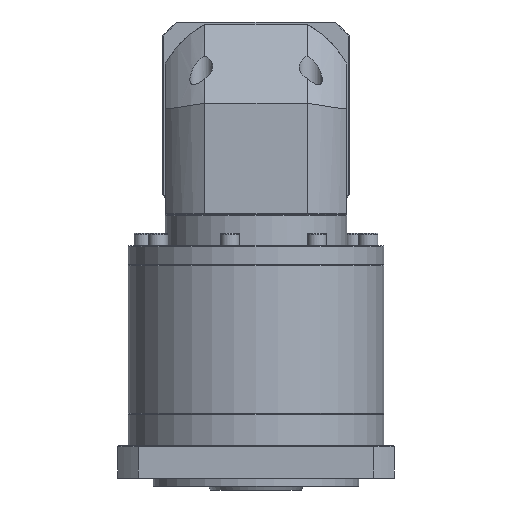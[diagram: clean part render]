
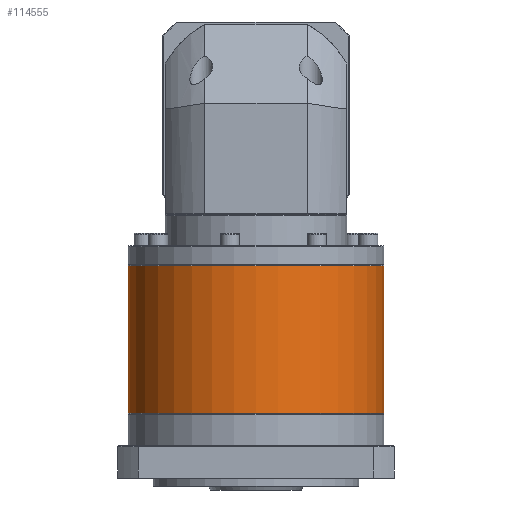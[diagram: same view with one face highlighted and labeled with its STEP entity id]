
A CAD part, front view. The second image highlights one B-rep face of the part: STEP entity #114555.
In plain terms, the highlighted cylindrical face has radius 81 mm (diameter 162 mm), a partial arc.
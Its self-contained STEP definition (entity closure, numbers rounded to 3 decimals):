
#1155 = CARTESIAN_POINT ( 'NONE',  ( -77.737, 93.747, -56.471 ) ) ;
#3042 = CARTESIAN_POINT ( 'NONE',  ( -239.737, 93.747, -55.971 ) ) ;
#5660 = EDGE_CURVE ( 'NONE', #32353, #60866, #133161, .T. ) ;
#8442 = ORIENTED_EDGE ( 'NONE', *, *, #60791, .F. ) ;
#10707 = DIRECTION ( 'NONE',  ( -1., 0., 0. ) ) ;
#11830 = VECTOR ( 'NONE', #77894, 1000. ) ;
#20290 = ORIENTED_EDGE ( 'NONE', *, *, #5660, .T. ) ;
#21773 = EDGE_CURVE ( 'NONE', #73895, #32353, #84606, .T. ) ;
#28866 = AXIS2_PLACEMENT_3D ( 'NONE', #52777, #63322, #10707 ) ;
#32353 = VERTEX_POINT ( 'NONE', #81417 ) ;
#40982 = CYLINDRICAL_SURFACE ( 'NONE', #87502, 81. ) ;
#43297 = DIRECTION ( 'NONE',  ( 0., 0., -1. ) ) ;
#43467 = ORIENTED_EDGE ( 'NONE', *, *, #127400, .T. ) ;
#45846 = FACE_OUTER_BOUND ( 'NONE', #127074, .T. ) ;
#48875 = CARTESIAN_POINT ( 'NONE',  ( -77.737, 93.747, -55.971 ) ) ;
#49944 = CARTESIAN_POINT ( 'NONE',  ( -239.737, 93.747, -56.471 ) ) ;
#52777 = CARTESIAN_POINT ( 'NONE',  ( -158.737, 93.747, -149.971 ) ) ;
#60791 = EDGE_CURVE ( 'NONE', #114512, #60866, #129700, .T. ) ;
#60866 = VERTEX_POINT ( 'NONE', #92243 ) ;
#63322 = DIRECTION ( 'NONE',  ( 0., 0., 1. ) ) ;
#73895 = VERTEX_POINT ( 'NONE', #49944 ) ;
#75204 = VECTOR ( 'NONE', #90428, 1000. ) ;
#77894 = DIRECTION ( 'NONE',  ( 0., 0., -1. ) ) ;
#81417 = CARTESIAN_POINT ( 'NONE',  ( -239.737, 93.747, -149.971 ) ) ;
#84606 = LINE ( 'NONE', #3042, #11830 ) ;
#87502 = AXIS2_PLACEMENT_3D ( 'NONE', #94541, #43297, #127305 ) ;
#90428 = DIRECTION ( 'NONE',  ( 0., 0., -1. ) ) ;
#92243 = CARTESIAN_POINT ( 'NONE',  ( -77.737, 93.747, -149.971 ) ) ;
#94541 = CARTESIAN_POINT ( 'NONE',  ( -158.737, 93.747, -55.971 ) ) ;
#100018 = DIRECTION ( 'NONE',  ( 0., 0., -1. ) ) ;
#114512 = VERTEX_POINT ( 'NONE', #1155 ) ;
#114555 = ADVANCED_FACE ( 'NONE', ( #45846 ), #40982, .T. ) ;
#116708 = ORIENTED_EDGE ( 'NONE', *, *, #21773, .T. ) ;
#119444 = CARTESIAN_POINT ( 'NONE',  ( -158.737, 93.747, -56.471 ) ) ;
#119898 = DIRECTION ( 'NONE',  ( -1., 0., 0. ) ) ;
#121583 = AXIS2_PLACEMENT_3D ( 'NONE', #119444, #100018, #119898 ) ;
#127074 = EDGE_LOOP ( 'NONE', ( #8442, #43467, #116708, #20290 ) ) ;
#127305 = DIRECTION ( 'NONE',  ( -1., 0., 0. ) ) ;
#127400 = EDGE_CURVE ( 'NONE', #114512, #73895, #134151, .T. ) ;
#129700 = LINE ( 'NONE', #48875, #75204 ) ;
#133161 = CIRCLE ( 'NONE', #28866, 81. ) ;
#134151 = CIRCLE ( 'NONE', #121583, 81. ) ;
